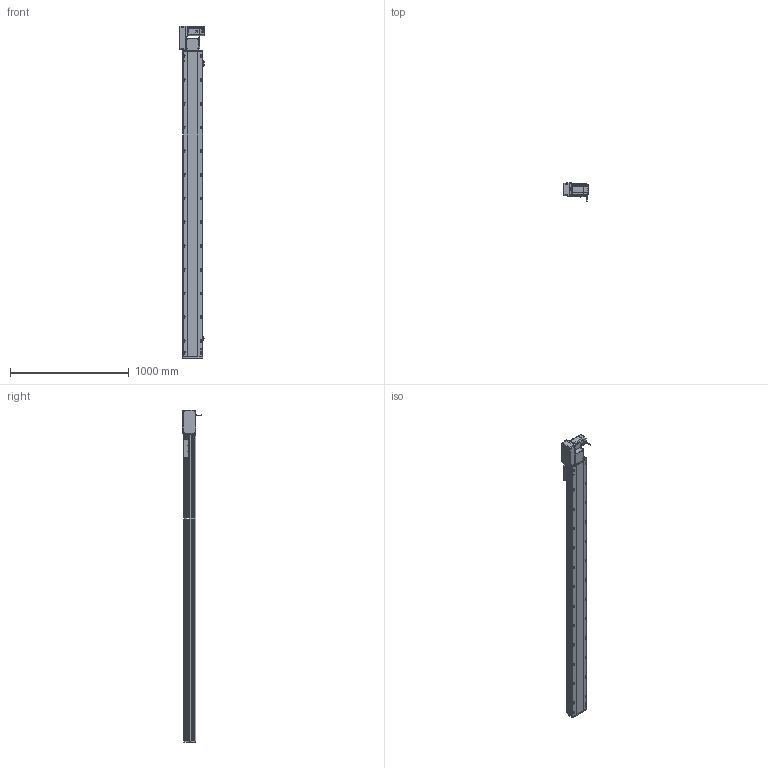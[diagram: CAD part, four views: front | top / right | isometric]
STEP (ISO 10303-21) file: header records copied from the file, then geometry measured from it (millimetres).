
FILE_DESCRIPTION (( 'STEP AP214' ), '1' );
FILE_NAME ('RTB17S-XX-2300-L-M75-C4.STEP', '2025-12-12T00:20:39', ( '' ), ( '' ), 'SwSTEP 2.0', 'SolidWorks 2018', '' );
FILE_SCHEMA (( 'AUTOMOTIVE_DESIGN' ));
Length unit declared in the file: millimetre
Products named in the file (15): RTB17S-L-々湍釱蚾饜-750W^RTB17S-XX-XX-L-M75-C4; RTB22S-GY-018P^RTB17S-L-々湍釱蚾饜-750W_RTB17S-XX-XX-L-M75-C4; 750W萇儂^RTB17S-XX-XX-L-M75-C4; RTH13-BL-012覜茼え俋离^RTB17S-賑釱_RTB17S-XX-XX-L-M75-C4; RTB17S-L-004-賑釱^RTB17S-賑釱_RTB17S-XX-XX-L-M75-C4; RTB22S-GY-008-M75--萇儂啣^RTB17S-L-々湍釱蚾饜-750W_RTB17S-XX-XX-L-M75-C4; RTB17S-L-007奻裔^RTB17S-XX-XX-L-M75-C4; RTB22S-GY-005P^RTB17S-L-々湍釱蚾饜-750W_RTB17S-XX-XX-L-M75-C4; RTB17-R-011菁釱^RTB17S-XX-XX-L-M75-C4; RTB17S-L-001-耜醱啣^RTB17S-XX-XX-L-M75-C4; EE672^RTB17S-XX-XX-L-M75-C4; RTB17S-賑釱^RTB17S-XX-XX-L-M75-C4; RMP17S-L-014-T20-P75--々湍釱^RTB17S-L-々湍釱蚾饜-750W_RTB17S-XX-XX-L-M75-C4; RTB17S-XX-2300-L-M75-C4; RTB22S-GY-017P^RTB17S-L-々湍釱蚾饜-750W_RTB17S-XX-XX-L-M75-C4
Assembly tree (17 placements, depth 3):
  RTB17S-XX-2300-L-M75-C4
    RTB17-R-011菁釱^RTB17S-XX-XX-L-M75-C4
    EE672^RTB17S-XX-XX-L-M75-C4  x3
    RTB17S-L-001-耜醱啣^RTB17S-XX-XX-L-M75-C4
    RTB17S-賑釱^RTB17S-XX-XX-L-M75-C4
      RTB17S-L-004-賑釱^RTB17S-賑釱_RTB17S-XX-XX-L-M75-C4
      RTH13-BL-012覜茼え俋离^RTB17S-賑釱_RTB17S-XX-XX-L-M75-C4
    RTB17S-L-007奻裔^RTB17S-XX-XX-L-M75-C4
    750W萇儂^RTB17S-XX-XX-L-M75-C4
    RTB17S-L-々湍釱蚾饜-750W^RTB17S-XX-XX-L-M75-C4
      RMP17S-L-014-T20-P75--々湍釱^RTB17S-L-々湍釱蚾饜-750W_RTB17S-XX-XX-L-M75-C4
      RTB22S-GY-005P^RTB17S-L-々湍釱蚾饜-750W_RTB17S-XX-XX-L-M75-C4
      RTB22S-GY-017P^RTB17S-L-々湍釱蚾饜-750W_RTB17S-XX-XX-L-M75-C4  x2
      RTB22S-GY-008-M75--萇儂啣^RTB17S-L-々湍釱蚾饜-750W_RTB17S-XX-XX-L-M75-C4
      RTB22S-GY-018P^RTB17S-L-々湍釱蚾饜-750W_RTB17S-XX-XX-L-M75-C4
Bounding box: 210.4 x 152.7 x 2799 mm (x, y, z)
Volume: 20325024.5 mm3; surface area: 3668646.4 mm2
Topology: 17 solids, 17 shells, 2201 faces, 6160 edges, 3986 vertices
Faces by surface type: plane 984, cylinder 801, bspline 294, cone 110, sphere 8, torus 4
Entity records: 63478 total; most frequent: CARTESIAN_POINT 18824, ORIENTED_EDGE 9164, DIRECTION 8492, EDGE_CURVE 4582, AXIS2_PLACEMENT_3D 3006, VERTEX_POINT 2990, LINE 2480, VECTOR 2480
